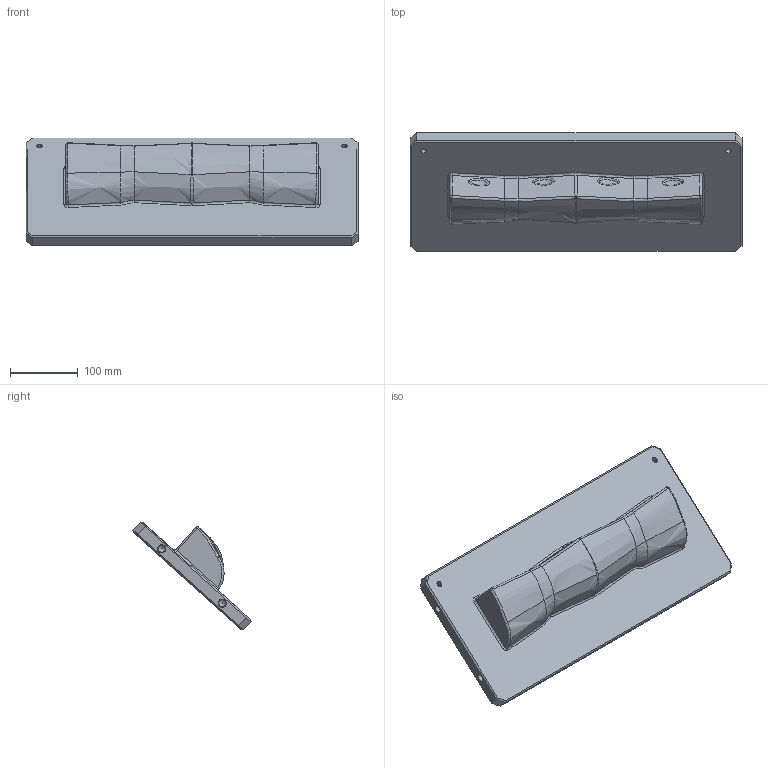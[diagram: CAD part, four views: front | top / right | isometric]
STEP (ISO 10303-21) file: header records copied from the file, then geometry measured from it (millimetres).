
FILE_DESCRIPTION(/* description */ (''),/* implementation_level */ '2;1');
FILE_NAME(/* name */ '10.11.2203.0000.0001.D000_02222222.stp',/* time_stamp */ '2020-02-07T12:29:45+03:00',/* author */ (''),/* organization */ (''),/* preprocessor_version */ 'ST-DEVELOPER v16.7',/* originating_system */ 'SIEMENS PLM Software NX 12.0',/* authorisation */ '');
FILE_SCHEMA (('AUTOMOTIVE_DESIGN { 1 0 10303 214 3 1 1 1 }'));
Length unit declared in the file: millimetre
Products named in the file (1): nikm0B149268bhv9
Bounding box: 490 x 174.2 x 159.4 mm (x, y, z)
Volume: 3298637.2 mm3; surface area: 276549.4 mm2
Topology: 1 solids, 1 shells, 115 faces, 275 edges, 163 vertices
Faces by surface type: bspline 66, plane 29, cone 10, cylinder 8, sphere 2
Full cylindrical faces by diameter (mm): 8 x2, 10.3 x4
Entity records: 11885 total; most frequent: CARTESIAN_POINT 9928, ORIENTED_EDGE 464, EDGE_CURVE 232, DIRECTION 223, VERTEX_POINT 150, EDGE_LOOP 140, B_SPLINE_CURVE_WITH_KNOTS 139, ADVANCED_FACE 115
